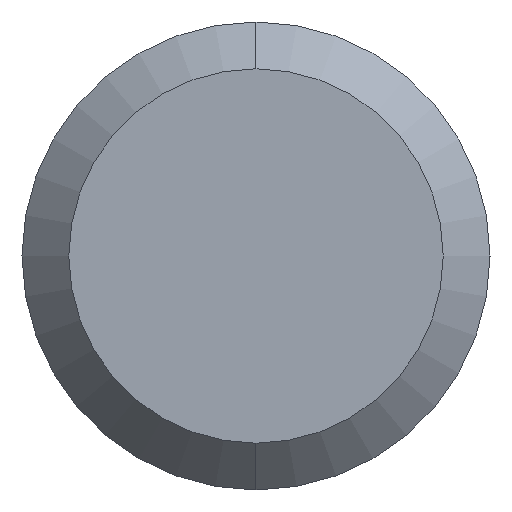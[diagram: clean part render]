
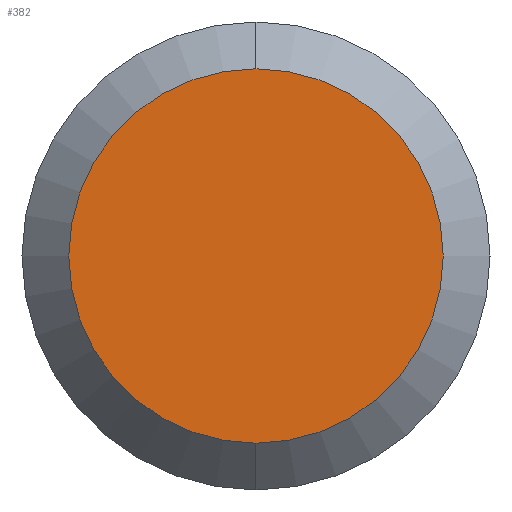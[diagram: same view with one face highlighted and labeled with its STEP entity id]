
A CAD part, left-side view. The second image highlights one B-rep face of the part: STEP entity #382.
In plain terms, the highlighted planar face has unit normal (-1, 0, 0).
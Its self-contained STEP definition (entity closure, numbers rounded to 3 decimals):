
#2 = CIRCLE ( 'NONE', #278, 1.6 ) ;
#4 = EDGE_LOOP ( 'NONE', ( #56, #80 ) ) ;
#13 = CARTESIAN_POINT ( 'NONE',  ( 0., 0., 0. ) ) ;
#14 = FACE_OUTER_BOUND ( 'NONE', #4, .T. ) ;
#16 = CARTESIAN_POINT ( 'NONE',  ( 0., 0., 0. ) ) ;
#45 = AXIS2_PLACEMENT_3D ( 'NONE', #367, #154, #96 ) ;
#56 = ORIENTED_EDGE ( 'NONE', *, *, #266, .T. ) ;
#80 = ORIENTED_EDGE ( 'NONE', *, *, #320, .T. ) ;
#86 = VERTEX_POINT ( 'NONE', #159 ) ;
#96 = DIRECTION ( 'NONE',  ( 0., 0., -1. ) ) ;
#154 = DIRECTION ( 'NONE',  ( 1., 0., 0. ) ) ;
#159 = CARTESIAN_POINT ( 'NONE',  ( 0., 0., 1.6 ) ) ;
#167 = CIRCLE ( 'NONE', #372, 1.6 ) ;
#210 = DIRECTION ( 'NONE',  ( 0., 0., 1. ) ) ;
#229 = CARTESIAN_POINT ( 'NONE',  ( 0., 0., -1.6 ) ) ;
#249 = DIRECTION ( 'NONE',  ( -1., 0., 0. ) ) ;
#250 = DIRECTION ( 'NONE',  ( 0., 0., 1. ) ) ;
#261 = PLANE ( 'NONE',  #45 ) ;
#266 = EDGE_CURVE ( 'NONE', #444, #86, #2, .T. ) ;
#278 = AXIS2_PLACEMENT_3D ( 'NONE', #13, #249, #210 ) ;
#288 = DIRECTION ( 'NONE',  ( -1., 0., 0. ) ) ;
#320 = EDGE_CURVE ( 'NONE', #86, #444, #167, .T. ) ;
#367 = CARTESIAN_POINT ( 'NONE',  ( 0., 0., 0. ) ) ;
#372 = AXIS2_PLACEMENT_3D ( 'NONE', #16, #288, #250 ) ;
#382 = ADVANCED_FACE ( 'NONE', ( #14 ), #261, .F. ) ;
#444 = VERTEX_POINT ( 'NONE', #229 ) ;
